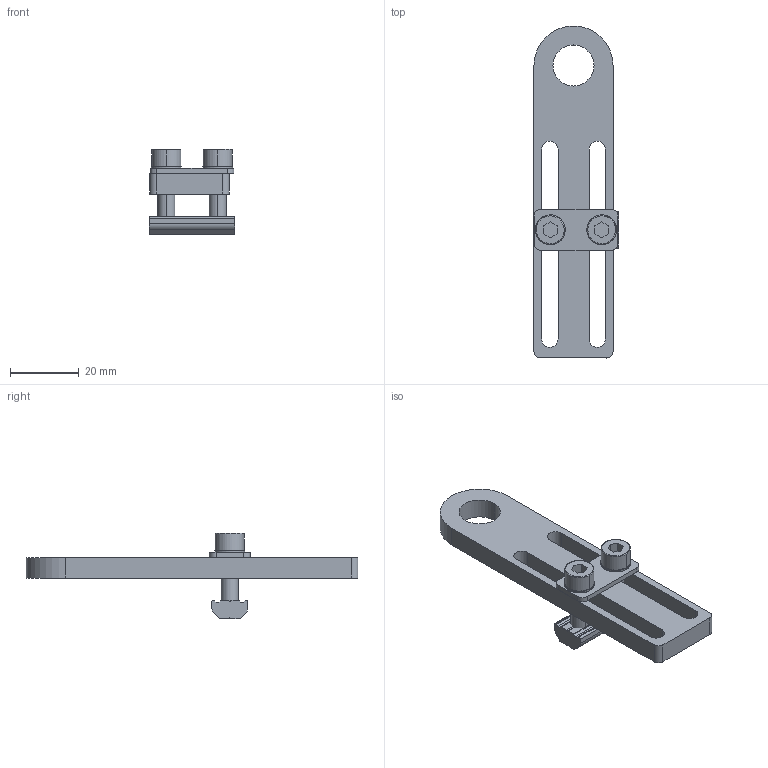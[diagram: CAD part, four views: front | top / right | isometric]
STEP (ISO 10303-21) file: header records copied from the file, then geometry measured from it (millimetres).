
FILE_DESCRIPTION (( 'STEP AP214' ), '1' );
FILE_NAME ('SMBE5-M1460.STEP', '2019-11-06T01:33:29', ( '微软用户' ), ( '微软中国' ), 'SwSTEP 2.0', 'SolidWorks 2016', '' );
FILE_SCHEMA (( 'AUTOMOTIVE_DESIGN' ));
Length unit declared in the file: millimetre
Products named in the file (1): SMBE5-M1460
Bounding box: 25 x 96.92 x 25 mm (x, y, z)
Volume: 11726.2 mm3; surface area: 9112.1 mm2
Topology: 7 solids, 7 shells, 510 faces, 1480 edges, 980 vertices
Faces by surface type: plane 447, cylinder 55, cone 4, bspline 4
Entity records: 22980 total; most frequent: CARTESIAN_POINT 3433, ORIENTED_EDGE 2960, DIRECTION 2932, EDGE_CURVE 1480, AXIS2_PLACEMENT_3D 985, VERTEX_POINT 980, VECTOR 962, LINE 962
